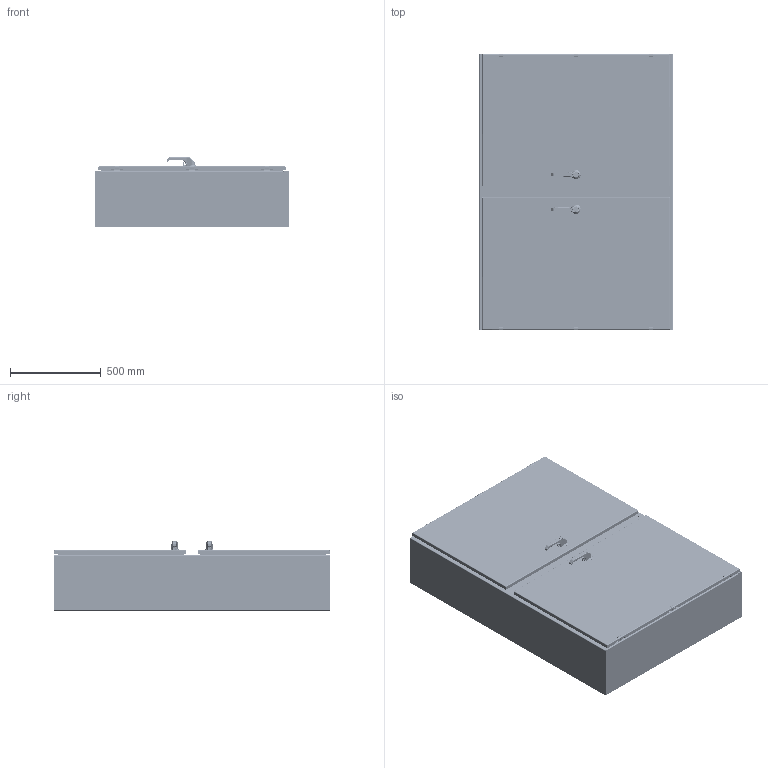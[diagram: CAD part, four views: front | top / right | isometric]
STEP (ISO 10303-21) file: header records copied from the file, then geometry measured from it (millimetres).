
FILE_DESCRIPTION((''),'2;1');
FILE_NAME('MODEL-327_ASM','2021-05-26T10:54:55',('johnh'),('SAGINAW CONTROL & ENGINEERING'),'CREO PARAMETRIC BY PTC INC, 2017260','CREO PARAMETRIC BY PTC INC, 2017260','');
FILE_SCHEMA(('AUTOMOTIVE_DESIGN { 1 0 10303 214 1 1 1 1 }'));
Length unit declared in the file: inch
Products named in the file (72): MODEL-327-BDY; MODEL-327-LS; MODEL-327-RS; 128377; 100041; 128377_ASM; MODEL-327-CCA-CHNL; MODEL-327-CCA-STIFF; 100067; 128025; 128380; 102535; MODEL-327-CCASSY_ASM; MODEL-327-R-DR; 100837; 100882; 111267; 100955_HANDLE; 100955_HANDLE_INSERT; 100955_SHAFT_CAM; 100955_ADAPTER_CAM; 100955_NUT_CAM; 100955_BASE; 100955_O-RING; 100955_WASHER_SEALING; 100955_NUT_MOUNTING_LARGE; 100955_NUT_MOUNTING_SMALL; 100955_SCREW_SMALL; 100955_INSERT; 100955_PADLOCK_CATCH; 100955_STOP_CAM; 100955_ASM; 102236; 100030; 102236_ASM; MODEL-327-ROD-UPR-RD; 128146; 128145; 128144; 102482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
Assembly tree (183 placements, depth 4):
  MODEL-327_ASM
    MODEL-327-BDY
    MODEL-327-LS
    MODEL-327-RS
    128377_ASM  x2
      128377
      100041
    MODEL-327-CCASSY_ASM
      MODEL-327-CCA-CHNL
      MODEL-327-CCA-STIFF
      100067  x4
      128025  x2
      128380  x2
      102535  x8
    MODEL-327-RIGHT-DR-ASSY_ASM
      MODEL-327-R-DR
      100837  x5
      100882  x4
      111267
      100955_ASM
        100955_HANDLE
        100955_HANDLE_INSERT
        100955_SHAFT_CAM
        100955_ADAPTER_CAM
        100955_NUT_CAM
        100955_BASE
        100955_O-RING
        100955_WASHER_SEALING
        100955_NUT_MOUNTING_LARGE
        100955_NUT_MOUNTING_SMALL
        100955_SCREW_SMALL
        100955_INSERT
        100955_PADLOCK_CATCH
        100955_STOP_CAM
      102236_ASM
        102236
        100030  x2
      MODEL-327-ROD-UPR-RD_ASM
        MODEL-327-ROD-UPR-RD
        128146
        128145
        128144
        102482  x2
      128143  x2
      112504  x2
      MODEL-327-ROD-LWR-RD_ASM
        MODEL-327-ROD-LWR-RD
        128146
        128145
        128144
        102482  x2
      MODEL-327-GSKT-R-DR
      126392_ASM  x3
        126392
        126397
      126395  x3
      102483  x9
      101226  x3
      101389  x3
      102140  x3
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Bounding box: 1066.8 x 1524 x 382.23 mm (x, y, z)
Volume: 16520240.8 mm3; surface area: 14755767.9 mm2
Topology: 199 solids, 205 shells, 14236 faces, 36077 edges, 22277 vertices
Faces by surface type: plane 5331, cylinder 4018, bspline 2015, cone 1192, torus 1188, sphere 492
Entity records: 259519 total; most frequent: CARTESIAN_POINT 81383, ORIENTED_EDGE 25990, DIRECTION 24610, PRESENTATION_STYLE_ASSIGNMENT 13173, STYLED_ITEM 13056, CURVE_STYLE 12995, EDGE_CURVE 12995, AXIS2_PLACEMENT_3D 9094
